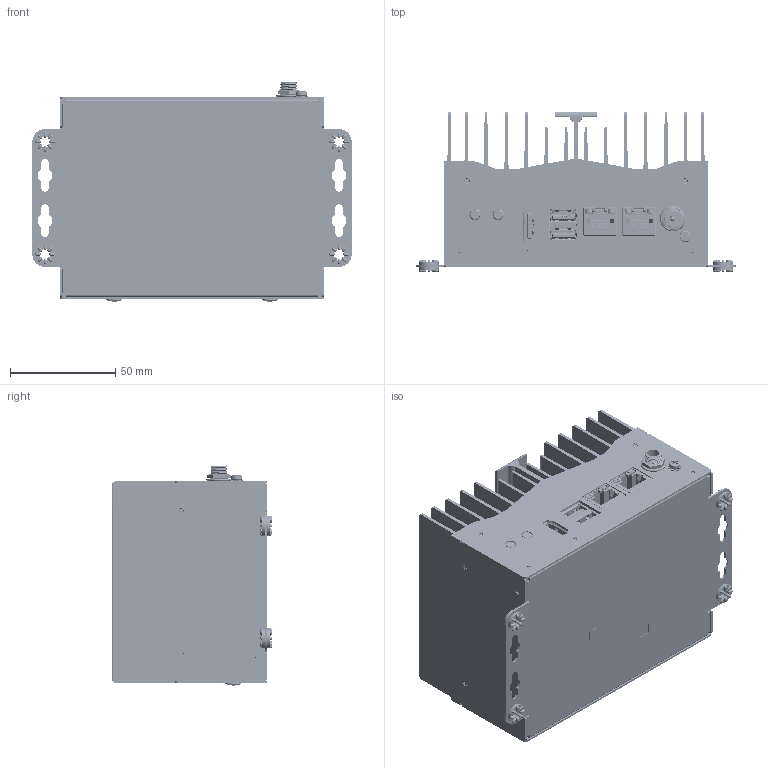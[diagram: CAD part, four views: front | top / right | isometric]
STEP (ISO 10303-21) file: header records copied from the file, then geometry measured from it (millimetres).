
FILE_DESCRIPTION((''),'2;1');
FILE_NAME('00_MAINUNIT_D115W_ASM','2026-02-25T16:35:50',('A002430'),(''),'CREO PARAMETRIC BY PTC INC, 2016390','CREO PARAMETRIC BY PTC INC, 2016390','');
FILE_SCHEMA(('CONFIG_CONTROL_DESIGN'));
Products named in the file (367): NX215B_TOP_CASE_ASSY_FZTECH_C_4; NX215B_TOP_CASE_ASSY_FZTECH_C_5_ASM; NX215B_TOP_CASE_ASSY_POLO_ASM_3_ASM; 00_MAINUNIT_NX215B_ASM_20_ASM_2_ASM; 00_MAINUNIT_NX215B_ASM_ASM_2__1_ASM; FZLED_19MM_ASM_3_1_ASM_1_ASM_1__ASM; ASM0001_ASM_1_ASM_1_ASM_1_ASM; STANDOFF-8MM; ASM0001_ASM_ASM_13_ASM_3_ASM; NX215B_TOP_CASE_ASSY_FZTECH_C_1; NX215B_TOP_CASE_ASSY_FZTECH_C_2_ASM; NX215B_TOP_CASE_ASSY_POLO_ASM_1; 00_MAINUNIT_NX215B_ASM_20_ASM_1_ASM; 00_MAINUNIT_NX215B_ASM_ASM_2__2_ASM; FZLED_19MM_ASM_3_1_ASM_1_ASM__1_ASM; ORIN_NX_CPU_PAD_1; ASM0001_ASM_1_ASM_1_ASM_1_ASM_2_ASM; STANDOFF-8MM_2_1_1_1; NX215B_ORIN_NX_HS_REDUCE_FIN; ASM0001_ASM_ASM_13_ASM_3_ASM_6__ASM; NEW_HEATSINK_33MM_15_8MM_ASM__1_ASM; NX215B_HS_CHANGE_20221205A_ASM__ASM; NEW_HEATSINK_33MM_15_8MM_ASM_3_ASM; ME_NCT_FRONT_D115W; ME_NCT_LEFT_D115W; ME_NCT_RIGHT_D115W; ME_NCT_BOTTOM_D115W; STANDOFF_M3_L7; TGM-28; ASM_ME_NCT_BOTTOM_D115W_ASM; 203LL; ME_NCT_BACK_OOB_D115W; ASM_ME_NCT_D115W_ASM; NEW_HEATSINK_36MM_15_7MM_ASM_ASM; M3X5-S_5; 100LL; ASM_SCREW_NX215B_ASM; PCB_D115W; 061ADCD-0BBK; 061ACU3B-BBD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
Assembly tree (402 placements, depth 12):
  00_MAINUNIT_D115W_ASM
    NEW_HEATSINK_36MM_15_7MM_ASM_ASM
      NEW_HEATSINK_33MM_15_8MM_ASM_3_ASM
        ASM0001_ASM_ASM_13_ASM_3_ASM
          ASM0001_ASM_1_ASM_1_ASM_1_ASM
            FZLED_19MM_ASM_3_1_ASM_1_ASM_1__ASM
              00_MAINUNIT_NX215B_ASM_ASM_2__1_ASM
                00_MAINUNIT_NX215B_ASM_20_ASM_2_ASM
                  NX215B_TOP_CASE_ASSY_FZTECH_C_5_ASM
                  NX215B_TOP_CASE_ASSY_POLO_ASM_3_ASM
          STANDOFF-8MM  x4
        NX215B_HS_CHANGE_20221205A_ASM__ASM
          NEW_HEATSINK_33MM_15_8MM_ASM__1_ASM
            ASM0001_ASM_ASM_13_ASM_3_ASM_6__ASM
              ASM0001_ASM_1_ASM_1_ASM_1_ASM_2_ASM
                FZLED_19MM_ASM_3_1_ASM_1_ASM__1_ASM
                  00_MAINUNIT_NX215B_ASM_ASM_2__2_ASM
                ORIN_NX_CPU_PAD_1
              STANDOFF-8MM_2_1_1_1  x4
              NX215B_ORIN_NX_HS_REDUCE_FIN
      ASM_ME_NCT_D115W_ASM
        ME_NCT_FRONT_D115W
        ME_NCT_LEFT_D115W
        ME_NCT_RIGHT_D115W
        ASM_ME_NCT_BOTTOM_D115W_ASM
          ME_NCT_BOTTOM_D115W
          STANDOFF_M3_L7  x2
          TGM-28  x4
        203LL  x2
        ME_NCT_BACK_OOB_D115W
    ASM_SCREW_NX215B_ASM
      M3X5-S_5  x17
      100LL
    ASM_PCB_D115W_ASM
      PCB_D115W
      061ADCD-0BBK
      061ACU3B-BBD
      0402LS67AAF6_F7  x2
      066AFPWD-ASJ
      ASSY-NVIDIA-MODULE_ASM
        ASSY-NANO-MODULE_1_ASM
          ASAA826-EASB0-XH_1
          104AAAAAAACS  x2
        JETSON_ORIN_NX_ORIN_NANO_MODULE_ASM
          P3767_ASM_1_ASM
            P3767-GROGU_ASM_1_ASM
              GROGU_MODULE_BOARD_ME_1
              080-1655-000_3_1_ASM
                080-1655-000_3_1_1
                080-1655-000_3_1_2
                080-1655-000_3_1_3
                080-1655-000_3_1_4
                080-1655-000_3_1_5
                080-1655-000_3_1_6
                080-1655-000_3_1_7
                080-1655-000_3_1_8
                080-1655-000_3_1_9
                080-1655-000_3_1_10
                080-1655-000_3_1_11
                080-1655-000_3_1_12
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Bounding box: 152 x 76.4 x 104.4 mm (x, y, z)
Volume: 282111.5 mm3; surface area: 290368.3 mm2
Topology: 364 solids, 416 shells, 42348 faces, 124507 edges, 81873 vertices
Faces by surface type: plane 33311, cylinder 8000, bspline 465, cone 261, sphere 124, torus 109, extrusion 78
Entity records: 1301444 total; most frequent: CARTESIAN_POINT 271764, ORIENTED_EDGE 222542, DIRECTION 201133, EDGE_CURVE 111333, VECTOR 93389, LINE 93311, VERTEX_POINT 73277, AXIS2_PLACEMENT_3D 53872
